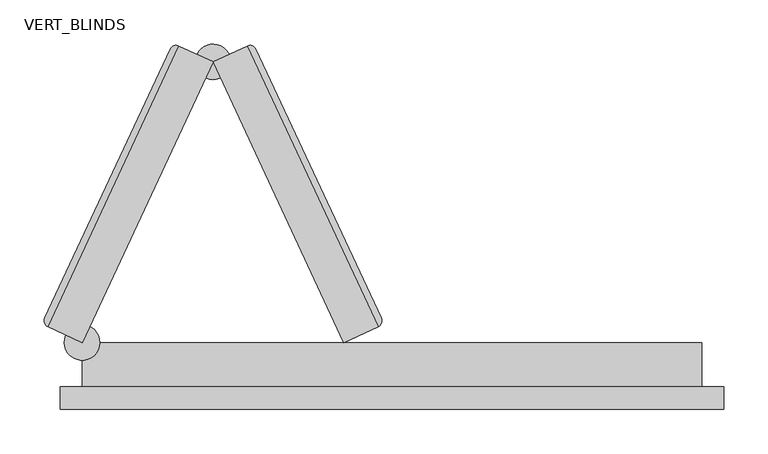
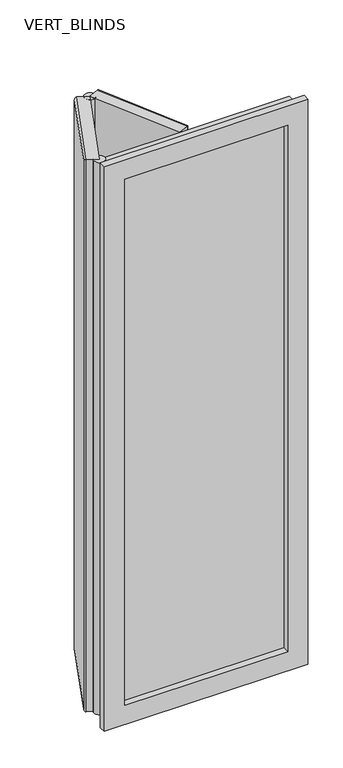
"""IFC4 building model written with IfcOpenShell, lengths in millimetres: plate geometry, CURTAIN PANEL VODA STYLE BIFOLDING : VERT_BLINDS."""

from ifc_helpers import new_model, si_unit, point, frame, frame_2d, origin, place, context, project, spatial, polyline, circle_curve, ellipse_curve, trimmed, segment, composite_curve, outline, extrude, faceted_brep, source, transform, mapped, element, save
from ifc_brep_helpers import plane_surface, cylinder_surface, advanced_brep


def vert_blinds_28f333ee(model_context):
    return source(origin(), model_context, "Body", "SolidModel", [
        advanced_brep(
        [(-350.0, 50.0, 2175.0), (-202.0836084, 367.2077255, 2175.0), (-240.6016893, 385.1690016, 2175.0), (-388.5180809, 67.9612761, 2175.0), (-202.0836084, 367.2077255, 25.0), (-350.0, 50.0, 25.0), (-388.5180809, 67.9612761, 25.0), (-240.6016893, 385.1690016, 25.0), (-392.1457524, 77.9282215, 32.5), (-392.1457524, 77.9282215, 2167.5), (-250.5686347, 381.5413301, 2167.5), (-250.5686347, 381.5413301, 32.5)],
        [
            (0, 1),
            (1, 2),
            (2, 3),
            (3, 0),
            (4, 5),
            (5, 6),
            (6, 7),
            (7, 4),
            (1, 4),
            (7, 2),
            (8, 9),
            (9, 10),
            (10, 11),
            (11, 8),
            (5, 0),
            (3, 6),
            (8, 6, ellipse_curve(frame((-385.348444, 74.7585845, 32.5), z_axis=(-0.29883623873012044, -0.6408563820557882, 0.7071067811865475), x_axis=(-0.29883623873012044, -0.640856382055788, -0.7071067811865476)), 10.6066017, 7.5)),
            (3, 9, ellipse_curve(frame((-385.348444, 74.7585845, 2167.5), z_axis=(-0.2988362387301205, -0.6408563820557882, -0.7071067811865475), x_axis=(0.2988362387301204, 0.6408563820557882, -0.7071067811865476)), 10.6066017, 7.5)),
            (11, 7, ellipse_curve(frame((-243.7713263, 378.3716932, 32.5), z_axis=(-0.2988362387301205, -0.6408563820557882, -0.7071067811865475), x_axis=(0.29883623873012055, 0.6408563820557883, -0.7071067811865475)), 10.6066017, 7.5)),
            (10, 2, ellipse_curve(frame((-243.7713263, 378.3716932, 2167.5), z_axis=(0.2988362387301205, 0.6408563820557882, -0.7071067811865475), x_axis=(0.29883623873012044, 0.6408563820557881, 0.7071067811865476)), 10.6066017, 7.5)),
        ],
        [
            plane_surface(frame((-247.3989977, 388.3386385, 2175.0), z_axis=(0.0, 0.0, 1.0), x_axis=(-0.9063077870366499, 0.42261826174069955, 0.0))),
            plane_surface(frame((-247.3989977, 388.3386385, 25.0), z_axis=(0.0, 0.0, -1.0), x_axis=(0.9063077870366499, -0.42261826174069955, 0.0))),
            plane_surface(frame((-202.0836084, 367.2077255, 2175.0), z_axis=(0.42261826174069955, 0.9063077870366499, 0.0), x_axis=(0.0, 0.0, -1.0))),
            plane_surface(frame((-247.3989977, 388.3386385, 2175.0), z_axis=(-0.9063077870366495, 0.4226182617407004, 0.0), x_axis=(0.0, 0.0, -1.0))),
            plane_surface(frame((-395.3153894, 71.1309131, 2175.0), z_axis=(-0.4226182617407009, -0.9063077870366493, 0.0), x_axis=(0.0, 0.0, -1.0))),
            plane_surface(frame((-350.0, 50.0, 2175.0), z_axis=(0.9063077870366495, -0.4226182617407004, 0.0), x_axis=(0.0, 0.0, -1.0))),
            cylinder_surface(frame((-385.348444, 74.7585845, 2175.0), z_axis=(0.0, 0.0, -1.0), x_axis=(0.9063077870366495, -0.4226182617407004, 0.0)), 7.5),
            cylinder_surface(frame((-388.5180809, 67.9612761, 32.5), z_axis=(0.4226182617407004, 0.9063077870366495, 0.0), x_axis=(0.9063077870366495, -0.4226182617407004, 0.0)), 7.5),
            cylinder_surface(frame((-243.7713263, 378.3716932, 25.0), z_axis=(0.0, 0.0, 1.0), x_axis=(0.9063077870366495, -0.42261826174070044, 0.0)), 7.5),
            cylinder_surface(frame((-240.6016893, 385.1690016, 2167.5), z_axis=(-0.4226182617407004, -0.9063077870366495, 0.0), x_axis=(0.9063077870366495, -0.4226182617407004, 0.0)), 7.5),
        ],
        [
            (0, [[1, 2, 3, 4]]),
            (1, [[5, 6, 7, 8]]),
            (2, [[9, -8, 10, -2]]),
            (3, [[11, 12, 13, 14]]),
            (4, [[15, -4, 16, -6]]),
            (5, [[-1, -15, -5, -9]]),
            (6, [[17, -16, 18, -11]]),
            (7, [[-17, -14, 19, -7]]),
            (8, [[-19, -13, 20, -10]]),
            (9, [[-18, -3, -20, -12]]),
        ],
    ),
        advanced_brep(
        [(-202.0836084, 367.2077255, 2175.0), (-54.1672168, 50.0, 2175.0), (-15.6491358, 67.9612761, 2175.0), (-163.5655274, 385.1690016, 2175.0), (-54.1672168, 50.0, 25.0), (-202.0836084, 367.2077255, 25.0), (-163.5655274, 385.1690016, 25.0), (-15.6491358, 67.9612761, 25.0), (-153.5985821, 381.5413301, 32.5), (-153.5985821, 381.5413301, 2167.5), (-12.0214644, 77.9282215, 2167.5), (-12.0214644, 77.9282215, 32.5)],
        [
            (0, 1),
            (1, 2),
            (2, 3),
            (3, 0),
            (4, 5),
            (5, 6),
            (6, 7),
            (7, 4),
            (1, 4),
            (7, 2),
            (8, 9),
            (9, 10),
            (10, 11),
            (11, 8),
            (5, 0),
            (3, 6),
            (8, 6, ellipse_curve(frame((-160.3958905, 378.3716932, 32.5), z_axis=(-0.2988362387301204, 0.6408563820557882, 0.7071067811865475), x_axis=(-0.2988362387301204, 0.6408563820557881, -0.7071067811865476)), 10.6066017, 7.5)),
            (3, 9, ellipse_curve(frame((-160.3958905, 378.3716932, 2167.5), z_axis=(-0.2988362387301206, 0.6408563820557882, -0.7071067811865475), x_axis=(0.2988362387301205, -0.6408563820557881, -0.7071067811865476)), 10.6066017, 7.5)),
            (11, 7, ellipse_curve(frame((-18.8187728, 74.7585845, 32.5), z_axis=(-0.2988362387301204, 0.6408563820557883, -0.7071067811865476), x_axis=(0.29883623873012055, -0.6408563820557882, -0.7071067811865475)), 10.6066017, 7.5)),
            (10, 2, ellipse_curve(frame((-18.8187728, 74.7585845, 2167.5), z_axis=(0.2988362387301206, -0.6408563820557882, -0.7071067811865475), x_axis=(0.2988362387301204, -0.6408563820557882, 0.7071067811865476)), 10.6066017, 7.5)),
        ],
        [
            plane_surface(frame((-8.8518274, 71.1309131, 2175.0), z_axis=(0.0, 0.0, 1.0), x_axis=(0.9063077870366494, 0.4226182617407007, 0.0))),
            plane_surface(frame((-8.8518274, 71.1309131, 25.0), z_axis=(0.0, 0.0, -1.0), x_axis=(-0.9063077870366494, -0.4226182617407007, 0.0))),
            plane_surface(frame((-54.1672168, 50.0, 2175.0), z_axis=(0.4226182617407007, -0.9063077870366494, 0.0), x_axis=(0.0, 0.0, -1.0))),
            plane_surface(frame((-8.8518274, 71.1309131, 2175.0), z_axis=(0.9063077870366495, 0.4226182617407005, 0.0), x_axis=(0.0, 0.0, -1.0))),
            plane_surface(frame((-156.768219, 388.3386385, 2175.0), z_axis=(-0.4226182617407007, 0.9063077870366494, 0.0), x_axis=(0.0, 0.0, -1.0))),
            plane_surface(frame((-202.0836084, 367.2077255, 2175.0), z_axis=(-0.9063077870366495, -0.4226182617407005, 0.0), x_axis=(0.0, 0.0, -1.0))),
            cylinder_surface(frame((-160.3958905, 378.3716932, 2175.0), z_axis=(0.0, 0.0, -1.0), x_axis=(-0.9063077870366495, -0.4226182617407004, 0.0)), 7.5),
            cylinder_surface(frame((-163.5655274, 385.1690016, 32.5), z_axis=(0.42261826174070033, -0.9063077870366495, 0.0), x_axis=(-0.9063077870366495, -0.42261826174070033, 0.0)), 7.5),
            cylinder_surface(frame((-18.8187728, 74.7585845, 25.0), z_axis=(0.0, 0.0, 1.0), x_axis=(-0.9063077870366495, -0.4226182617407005, 0.0)), 7.5),
            cylinder_surface(frame((-15.6491358, 67.9612761, 2167.5), z_axis=(-0.4226182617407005, 0.9063077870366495, 0.0), x_axis=(-0.9063077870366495, -0.4226182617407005, 0.0)), 7.5),
        ],
        [
            (0, [[1, 2, 3, 4]]),
            (1, [[5, 6, 7, 8]]),
            (2, [[9, -8, 10, -2]]),
            (3, [[11, 12, 13, 14]]),
            (4, [[15, -4, 16, -6]]),
            (5, [[-1, -15, -5, -9]]),
            (6, [[17, -16, 18, -11]]),
            (7, [[-17, -14, 19, -7]]),
            (8, [[-19, -13, 20, -10]]),
            (9, [[-18, -3, -20, -12]]),
        ],
    ),
        extrude(outline(composite_curve([segment(trimmed(circle_curve(frame_2d((-350.0, 50.0)), 20.0), [point((-370.0, 50.0))], [point((-330.0, 50.0))], False, "CARTESIAN"), True, "CONTINUOUS"), segment(trimmed(circle_curve(frame_2d((-350.0, 50.0)), 20.0), [point((-330.0, 50.0))], [point((-370.0, 50.0))], False, "CARTESIAN"), True, "CONTINUOUS")], self_intersect=False)), frame((0.0, 0.0, 25.0), z_axis=(0.0, 0.0, 1.0), x_axis=(1.0, 0.0, 0.0)), (0.0, 0.0, 1.0), 2150.0),
        extrude(outline(composite_curve([segment(trimmed(circle_curve(frame_2d((-202.0836084, 367.2077255)), 20.0), [point((-210.5359736, 349.0815697))], [point((-193.6312432, 385.3338812))], False, "CARTESIAN"), True, "CONTINUOUS"), segment(trimmed(circle_curve(frame_2d((-202.0836084, 367.2077255)), 20.0), [point((-193.6312432, 385.3338812))], [point((-210.5359736, 349.0815697))], False, "CARTESIAN"), True, "CONTINUOUS")], self_intersect=False)), frame((0.0, 0.0, 25.0), z_axis=(0.0, 0.0, 1.0), x_axis=(1.0, 0.0, 0.0)), (0.0, 0.0, 1.0), 2150.0),
        extrude(outline(polyline([(-300.0, 24.0), (300.0, 24.0), (300.0, 0.0), (-300.0, 0.0), (-300.0, 24.0)])), frame((0.0, 0.0, 75.0), z_axis=(0.0, 0.0, 1.0), x_axis=(1.0, 0.0, 0.0)), (0.0, 0.0, 1.0), 2050.0),
        faceted_brep([(-300.0, 50.0, 2125.0), (-300.0, -25.0, 2125.0), (-300.0, -25.0, 75.0), (-300.0, 50.0, 75.0), (-375.0, -25.0, 2200.0), (-375.0, 0.0, 2200.0), (-375.0, 0.0, 0.0), (-375.0, -25.0, 0.0), (-350.0, 0.0, 2175.0), (-350.0, 50.0, 2175.0), (-350.0, 50.0, 25.0), (-350.0, 0.0, 25.0), (300.0, -25.0, 75.0), (300.0, 50.0, 75.0), (375.0, 0.0, 0.0), (375.0, -25.0, 0.0), (350.0, 50.0, 25.0), (350.0, 0.0, 25.0), (300.0, -25.0, 2125.0), (300.0, 50.0, 2125.0), (375.0, 0.0, 2200.0), (375.0, -25.0, 2200.0), (350.0, 50.0, 2175.0), (350.0, 0.0, 2175.0)], [[[0, 1, 2, 3]], [[4, 5, 6, 7]], [[8, 9, 10, 11]], [[3, 2, 12, 13]], [[7, 6, 14, 15]], [[11, 10, 16, 17]], [[13, 12, 18, 19]], [[15, 14, 20, 21]], [[17, 16, 22, 23]], [[9, 22, 16, 10], [3, 13, 19, 0]], [[19, 18, 1, 0]], [[7, 15, 21, 4], [1, 18, 12, 2]], [[21, 20, 5, 4]], [[5, 20, 14, 6], [11, 17, 23, 8]], [[23, 22, 9, 8]]]),
    ])


if __name__ == "__main__":
    model = new_model("IFC4")
    model_context = context("Model", 3, world=origin())
    ifc_project = project(units=[si_unit("LENGTHUNIT", "METRE", prefix="MILLI")], contexts=[model_context])
    site = spatial("IfcSite", under=ifc_project)
    building = spatial("IfcBuilding", under=site)
    placement = place(None, origin())
    vert_blinds_shape = vert_blinds_28f333ee(model_context)
    element("IfcPlate", 1, ObjectType="CURTAIN PANEL VODA STYLE BIFOLDING : VERT_BLINDS", at=placement, inside=building, context=model_context, shape_type="MappedRepresentation", body=[
        mapped(vert_blinds_shape, transform((0.0, 0.0, 0.0), x_axis=(1.0, 0.0, 0.0), y_axis=(0.0, 1.0, 0.0), z_axis=(0.0, 0.0, 1.0))),
    ])
    save(model, "model.ifc")
